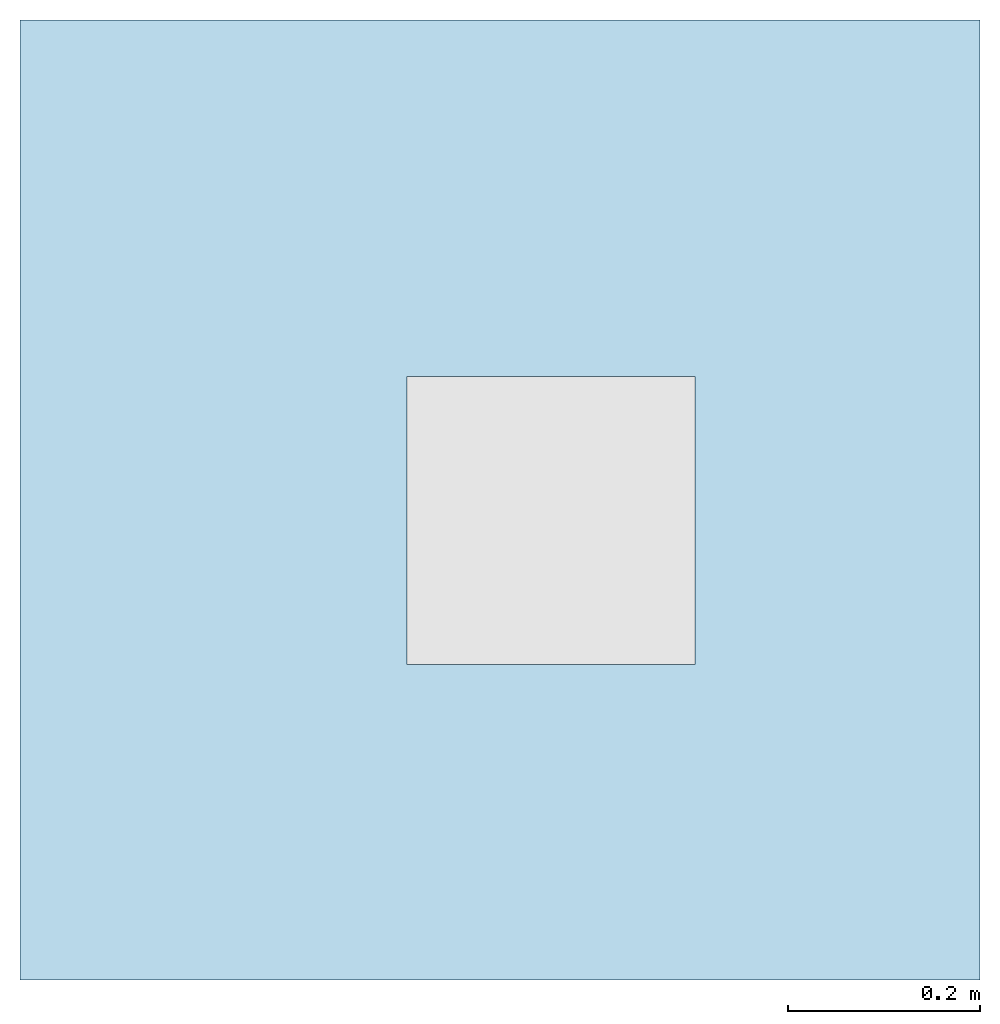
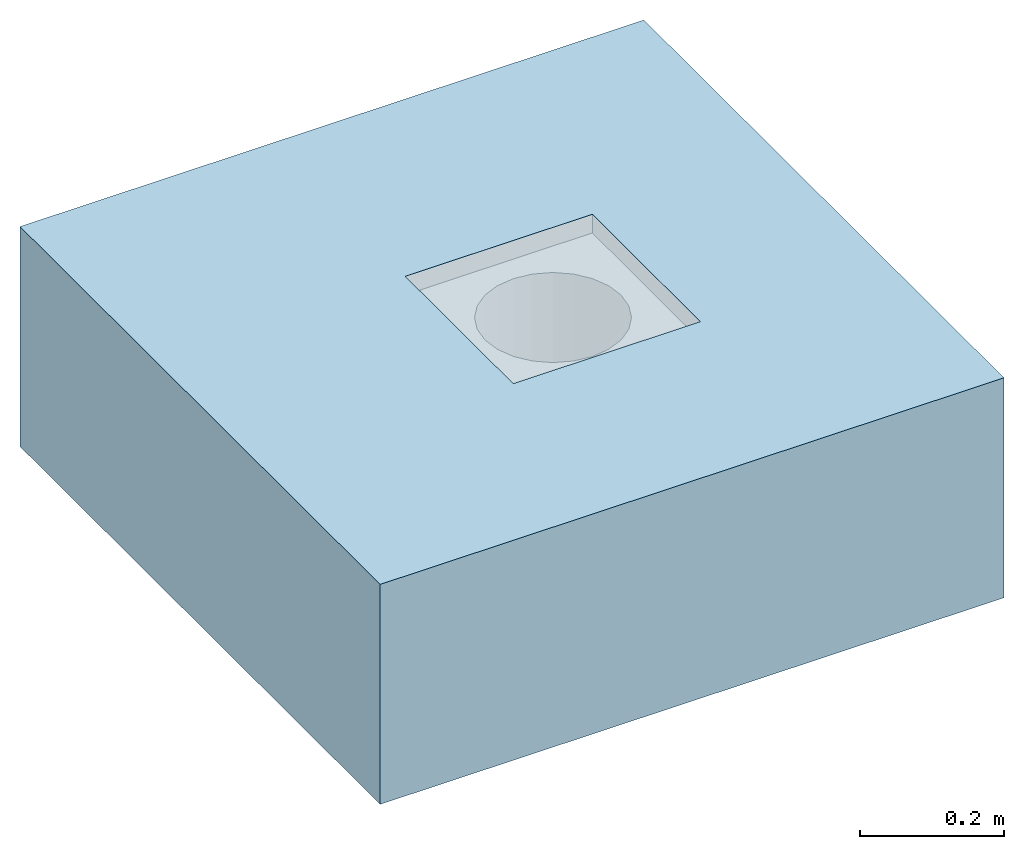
# One storey, incomplete: 1 slab, 1 opening.
"""IFC2X3 building model written with IfcOpenShell, lengths in millimetres."""

from ifc_helpers import new_model, entity, si_unit, converted_unit, derived_unit, direction, frame, frame_2d, origin, place, context, subcontext, project, spatial, rectangle, extrude, faceted_brep, material, layer, layer_set, layer_usage, element, save


model = new_model("IFC2X3")

# Units and contexts
model_context = context("Model", 3, precision=1e-05, world=origin(), true_north=direction((2.0, 6.12303176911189e-17, 1.0)))
context_of_model = context(None, 3, precision=1e-05, world=origin(), true_north=direction((2.0, 6.12303176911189e-17, 1.0)))
body_context = subcontext(model_context, "Body", "Model", "MODEL_VIEW")
ifc_project = project(units=[si_unit("LENGTHUNIT", "METRE", prefix="MILLI"), converted_unit("AREAUNIT", "SQUARE FOOT", entity("IfcRatioMeasure", 0.09290304), si_unit("AREAUNIT", "SQUARE_METRE"), dimensions=[2, 0, 0, 0, 0, 0, 0]), converted_unit("VOLUMEUNIT", "CUBIC FOOT", entity("IfcRatioMeasure", 0.028316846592), si_unit("VOLUMEUNIT", "CUBIC_METRE"), dimensions=[3, 0, 0, 0, 0, 0, 0]), converted_unit("PLANEANGLEUNIT", "DEGREE", entity("IfcRatioMeasure", 0.0174532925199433), si_unit("PLANEANGLEUNIT", "RADIAN"), dimensions=[0, 0, 0, 0, 0, 0, 0]), si_unit("MASSUNIT", "GRAM", prefix="KILO"), si_unit("TIMEUNIT", "SECOND"), si_unit("THERMODYNAMICTEMPERATUREUNIT", "KELVIN"), derived_unit("THERMALTRANSMITTANCEUNIT", [(si_unit("MASSUNIT", "GRAM", prefix="KILO"), 1), (si_unit("THERMODYNAMICTEMPERATUREUNIT", "KELVIN"), -1), (si_unit("TIMEUNIT", "SECOND"), -3)]), derived_unit("VOLUMETRICFLOWRATEUNIT", [(si_unit("LENGTHUNIT", "METRE"), 3), (si_unit("TIMEUNIT", "SECOND"), -1)]), si_unit("POWERUNIT", "WATT")], contexts=[model_context, context_of_model])

# Site, building, storey
site_placement = place(None, origin())
site = spatial("IfcSite", under=ifc_project, at=site_placement, Name="Default", CompositionType="ELEMENT")
building_placement = place(site_placement, origin())
building = spatial("IfcBuilding", under=site, at=building_placement, CompositionType="ELEMENT")
storey_placement = place(building_placement, origin())
storey = spatial("IfcBuildingStorey", under=building, at=storey_placement, Name="Level 1", CompositionType="ELEMENT", Elevation=0.0)

# Slab, opening
ifc_material_1 = material(Name="Plywood, Sheathing")
ifc_layer_1 = layer(ifc_material_1, 68.0)
ifc_material_2 = material(Name="Default Floor")
ifc_layer_2 = layer(ifc_material_2, 304.8)
ifc_layer_set = layer_set([ifc_layer_1, ifc_layer_2], Name="Floor:Generic - 12\"")
ifc_layer_usage = layer_usage(ifc_layer_set, "AXIS3", "POSITIVE", 0.0)
slab_placement = place(storey_placement, frame((-10598.0627721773, 2392.60708548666, -372.8)))
slab = element("IfcSlab", 1, at=slab_placement, inside=storey, material=ifc_layer_usage, Name="Floor:Generic - 12\"", ObjectType="Floor:Generic - 12\"", PredefinedType="FLOOR", context=body_context, shape_type="SweptSolid", body=[
    extrude(rectangle(XDim=1000.0, YDim=1000.0, at=frame_2d((0.0, 0.0), x_axis=(0.0, -1.0))), frame((500.0, 500.0, 372.8), z_axis=(0.0, 0.0, -1.0), x_axis=(-1.0, 0.0, 0.0)), (0.0, 0.0, 1.0), 372.8),
])
opening_placement = place(slab_placement, frame((402.947396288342, 328.448225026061, 97.8000000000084)))
element("IfcOpeningElement", 2, at=opening_placement, cuts=slab, ObjectType="Recess", context=body_context, shape_type="Brep", body=[
    faceted_brep([(300.0, 0.0, 275.0), (0.0, 0.0, 275.0), (0.0, 0.0, 243.416085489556), (300.0, 0.0, 243.416085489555), (300.0, 300.0, 243.416085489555), (0.0, 300.0, 243.416085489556), (300.0, 300.0, 275.0), (0.0, 300.0, 275.0), (95.8396418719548, 55.6032309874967, 243.416085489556), (122.128365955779, 44.714084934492, 243.416085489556), (73.2650027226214, 72.9253608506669, 243.416085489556), (150.339641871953, 41.0, 243.416085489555), (41.3396418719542, 150.0, 243.416085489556), (45.0537268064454, 121.788724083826, 243.416085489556), (55.9428728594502, 95.5000000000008, 243.416085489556), (178.550917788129, 44.7140849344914, 243.416085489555), (204.839641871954, 55.6032309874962, 243.416085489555), (227.414281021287, 72.9253608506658, 243.416085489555), (244.736410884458, 95.4999999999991, 243.416085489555), (255.625556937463, 121.788724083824, 243.416085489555), (259.339641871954, 150.0, 243.416085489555), (55.9428728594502, 204.5, 243.416085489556), (45.0537268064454, 178.211275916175, 243.416085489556), (73.2650027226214, 227.074639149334, 243.416085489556), (95.8396418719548, 244.396769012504, 243.416085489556), (122.128365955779, 255.285915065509, 243.416085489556), (150.339641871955, 259.0, 243.416085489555), (255.625556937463, 178.211275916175, 243.416085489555), (244.736410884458, 204.5, 243.416085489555), (204.839641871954, 244.396769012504, 243.416085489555), (178.550917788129, 255.285915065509, 243.416085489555), (227.414281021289, 227.074639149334, 243.416085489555), (190.747821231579, 220.446605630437, 77.082), (204.839641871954, 244.396769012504, 77.082), (207.523470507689, 207.574197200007, 77.082), (227.414281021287, 227.074639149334, 77.082), (178.550917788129, 255.285915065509, 77.082), (150.339641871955, 259.0, 77.082), (171.212163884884, 228.538539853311, 77.082), (150.24782123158, 231.298547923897, 77.082), (228.487813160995, 171.262890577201, 77.082), (244.736410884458, 204.5, 77.082), (255.625556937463, 178.211275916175, 77.082), (231.247821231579, 150.298547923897, 77.082), (259.339641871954, 150.0, 77.082), (220.395878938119, 190.798547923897, 77.082), (122.128365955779, 255.285915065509, 77.082), (129.283478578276, 228.538539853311, 77.082), (109.747821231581, 220.446605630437, 77.082), (73.2650027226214, 227.074639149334, 77.082), (95.8396418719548, 244.396769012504, 77.082), (92.9721719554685, 207.574197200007, 77.082), (80.0997635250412, 190.798547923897, 77.082), (72.0078293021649, 171.262890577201, 77.082), (55.9428728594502, 204.5, 77.082), (45.0537268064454, 178.211275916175, 77.082), (69.2478212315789, 150.298547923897, 77.082), (41.3396418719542, 150.0, 77.082), (228.487813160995, 129.334205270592, 77.082), (255.625556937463, 121.788724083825, 77.082), (220.395878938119, 109.798547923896, 77.082), (244.736410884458, 95.4999999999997, 77.082), (207.523470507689, 93.022898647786, 77.082), (227.414281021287, 72.9253608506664, 77.082), (190.747821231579, 80.1504902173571, 77.082), (204.839641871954, 55.6032309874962, 77.082), (171.212163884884, 72.0585559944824, 77.082), (178.550917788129, 44.714084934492, 77.082), (150.339641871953, 41.0, 77.082), (150.24782123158, 69.2985479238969, 77.082), (80.0997635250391, 109.798547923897, 77.082), (92.9721719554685, 93.0228986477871, 77.082), (55.9428728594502, 95.5000000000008, 77.082), (72.0078293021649, 129.334205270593, 77.082), (45.0537268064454, 121.788724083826, 77.082), (73.2650027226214, 72.9253608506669, 77.082), (129.283478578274, 72.0585559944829, 77.082), (122.128365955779, 44.714084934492, 77.082), (95.8396418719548, 55.6032309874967, 77.082), (109.747821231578, 80.1504902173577, 77.082), (150.247821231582, 231.298547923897, 0.0), (171.212163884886, 228.538539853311, 0.0), (190.747821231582, 220.446605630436, 0.0), (207.523470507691, 207.574197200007, 0.0), (220.395878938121, 190.798547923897, 0.0), (228.487813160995, 171.262890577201, 0.0), (129.283478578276, 228.538539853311, 0.0), (92.9721719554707, 207.574197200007, 0.0), (109.747821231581, 220.446605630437, 0.0), (80.0997635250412, 190.798547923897, 0.0), (69.2478212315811, 150.298547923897, 0.0), (72.0078293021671, 171.262890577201, 0.0), (80.0997635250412, 109.798547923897, 0.0), (231.247821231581, 150.298547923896, 0.0), (228.487813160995, 129.334205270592, 0.0), (207.523470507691, 93.022898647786, 0.0), (220.395878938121, 109.798547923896, 0.0), (190.747821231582, 80.1504902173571, 0.0), (171.212163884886, 72.0585559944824, 0.0), (109.747821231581, 80.1504902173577, 0.0), (92.9721719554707, 93.0228986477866, 0.0), (72.0078293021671, 129.334205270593, 0.0), (150.24782123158, 69.2985479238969, 0.0), (129.283478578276, 72.0585559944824, 0.0)], [[[0, 1, 2]], [[2, 3, 0]], [[4, 5, 6]], [[7, 6, 5]], [[1, 0, 6]], [[6, 7, 1]], [[0, 3, 6]], [[4, 6, 3]], [[2, 1, 5]], [[7, 5, 1]], [[2, 8, 9]], [[8, 2, 10]], [[2, 9, 11]], [[12, 13, 2]], [[14, 10, 2]], [[13, 14, 2]], [[2, 5, 12]], [[3, 11, 15]], [[11, 3, 2]], [[3, 15, 16]], [[16, 17, 3]], [[18, 19, 3]], [[17, 18, 3]], [[3, 19, 20]], [[21, 22, 5]], [[23, 21, 5]], [[24, 5, 25]], [[5, 24, 23]], [[26, 25, 5]], [[5, 4, 26]], [[22, 12, 5]], [[27, 28, 4]], [[20, 27, 4]], [[29, 30, 4]], [[31, 4, 28]], [[4, 31, 29]], [[30, 26, 4]], [[20, 4, 3]], [[32, 33, 34]], [[34, 33, 35]], [[33, 32, 36]], [[37, 36, 38]], [[38, 36, 32]], [[37, 38, 39]], [[40, 41, 42]], [[43, 42, 44]], [[40, 42, 43]], [[34, 35, 45]], [[40, 45, 41]], [[45, 35, 41]], [[46, 39, 47]], [[39, 46, 37]], [[46, 47, 48]], [[49, 50, 51]], [[48, 50, 46]], [[51, 50, 48]], [[52, 53, 54]], [[52, 54, 49]], [[53, 55, 54]], [[55, 53, 56]], [[55, 56, 57]], [[52, 49, 51]], [[58, 44, 59]], [[60, 59, 61]], [[60, 58, 59]], [[62, 60, 61]], [[61, 63, 62]], [[64, 63, 65]], [[63, 64, 62]], [[64, 65, 66]], [[66, 67, 68]], [[67, 66, 65]], [[66, 68, 69]], [[70, 71, 72]], [[73, 70, 74]], [[73, 74, 57]], [[74, 70, 72]], [[71, 75, 72]], [[57, 56, 73]], [[76, 69, 77]], [[77, 69, 68]], [[76, 77, 78]], [[79, 78, 75]], [[78, 79, 76]], [[79, 75, 71]], [[58, 43, 44]], [[13, 74, 72]], [[75, 14, 72]], [[8, 78, 77]], [[75, 78, 10]], [[9, 77, 68]], [[74, 12, 57]], [[74, 13, 12]], [[72, 14, 13]], [[75, 10, 14]], [[8, 10, 78]], [[77, 9, 8]], [[68, 11, 9]], [[15, 67, 65]], [[63, 16, 65]], [[18, 61, 59]], [[63, 61, 17]], [[19, 59, 44]], [[67, 15, 11]], [[65, 16, 15]], [[63, 17, 16]], [[61, 18, 17]], [[19, 18, 59]], [[44, 20, 19]], [[67, 11, 68]], [[44, 42, 20]], [[29, 33, 36]], [[33, 31, 35]], [[30, 36, 37]], [[42, 28, 27]], [[27, 20, 42]], [[41, 31, 28]], [[41, 35, 31]], [[31, 33, 29]], [[36, 30, 29]], [[41, 28, 42]], [[37, 26, 30]], [[25, 46, 50]], [[49, 24, 50]], [[21, 54, 55]], [[49, 54, 23]], [[22, 55, 57]], [[46, 25, 26]], [[50, 24, 25]], [[49, 23, 24]], [[54, 21, 23]], [[22, 21, 55]], [[57, 12, 22]], [[46, 26, 37]], [[80, 81, 82]], [[80, 82, 83]], [[83, 84, 85]], [[80, 83, 86]], [[86, 83, 85]], [[86, 87, 88]], [[87, 86, 89]], [[89, 90, 91]], [[89, 86, 85]], [[89, 92, 90]], [[89, 85, 93]], [[92, 89, 94]], [[95, 94, 96]], [[97, 98, 94]], [[97, 94, 95]], [[99, 94, 98]], [[92, 99, 100]], [[101, 90, 92]], [[99, 102, 103]], [[99, 92, 94]], [[102, 99, 98]], [[89, 93, 94]], [[70, 92, 100]], [[79, 99, 103]], [[100, 99, 71]], [[102, 76, 103]], [[56, 101, 73]], [[101, 56, 90]], [[101, 92, 73]], [[92, 70, 73]], [[100, 71, 70]], [[79, 71, 99]], [[103, 76, 79]], [[102, 69, 76]], [[66, 98, 97]], [[95, 64, 97]], [[60, 96, 94]], [[95, 96, 62]], [[58, 94, 93]], [[98, 66, 69]], [[97, 64, 66]], [[95, 62, 64]], [[96, 60, 62]], [[58, 60, 94]], [[93, 43, 58]], [[98, 69, 102]], [[85, 43, 93]], [[84, 45, 85]], [[81, 80, 38]], [[83, 34, 84]], [[85, 45, 40]], [[40, 43, 85]], [[32, 82, 38]], [[32, 34, 83]], [[82, 81, 38]], [[34, 45, 84]], [[83, 82, 32]], [[80, 39, 38]], [[47, 86, 88]], [[87, 48, 88]], [[52, 89, 91]], [[87, 89, 51]], [[53, 91, 90]], [[86, 47, 39]], [[88, 48, 47]], [[87, 51, 48]], [[89, 52, 51]], [[53, 52, 91]], [[90, 56, 53]], [[86, 39, 80]]]),
])

save(model, "model.ifc")
